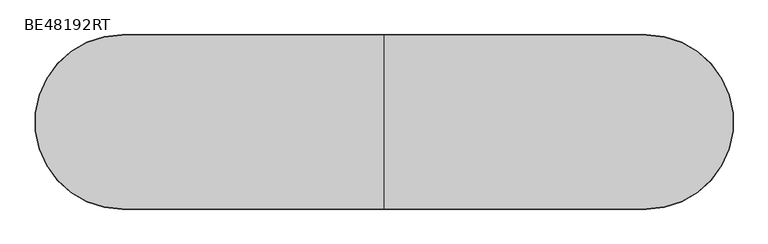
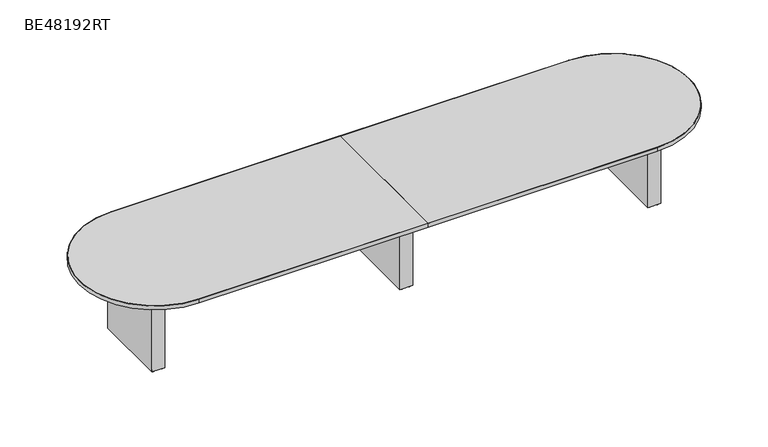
"""IFC4 building model written with IfcOpenShell, lengths in millimetres: furniture geometry, ERG-Beta-Conference_Table-Racetrack : BE48192RT."""

import ifcopenshell
import ifcopenshell.guid

model = None  # the IFC model being written
_history = None  # IfcOwnerHistory: only IFC2X3 demands one
_inside = {}  # id of a spatial element -> (the spatial element, [elements in it])
_under = {}  # id of a project, library or spatial element -> (it, [spatial elements below it])
_declared = {}  # id of a project -> (the project, [libraries it declares])
_typed = {}  # id of a type object -> (the type object, [elements of that type])
_made_of = {}  # id of a material, layer set ... -> (it, [elements and type objects made of it])


def new_model(schema):
    """Start an empty IFC model of exactly this schema.

    Asked for "IFC4X3", IfcOpenShell would pick the latest addendum, in which some entities
    have other attributes; the version numbers below select the first issue.
    IFC2X3 requires an IfcOwnerHistory on every rooted entity: one is made here for all.
    """
    global model, _history
    if schema == "IFC4X3":
        model = ifcopenshell.file(schema_version=(4, 3, 0, 0))
    else:
        model = ifcopenshell.file(schema=schema)
    _inside.clear()
    _under.clear()
    _declared.clear()
    _typed.clear()
    _made_of.clear()
    _history = None
    if model.schema == "IFC2X3":
        org = make("IfcOrganization", Name="unknown")
        user = make(
            "IfcPersonAndOrganization",
            ThePerson=make("IfcPerson", FamilyName="unknown"),
            TheOrganization=org,
        )
        app = make(
            "IfcApplication",
            ApplicationDeveloper=org,
            Version="unknown",
            ApplicationFullName="unknown",
            ApplicationIdentifier="unknown",
        )
        _history = make(
            "IfcOwnerHistory",
            OwningUser=user,
            OwningApplication=app,
            ChangeAction="ADDED",
            CreationDate=0,
        )
    return model


def make(cls, **values):
    """One entity of the class cls with the attributes given. An attribute that is None is left unset."""
    return model.create_entity(
        cls, **{name: value for name, value in values.items() if value is not None}
    )


def rooted(cls, **values):
    """An entity with a GlobalId (a new one), such as an element, a storey or a relation."""
    return make(cls, GlobalId=ifcopenshell.guid.new(), OwnerHistory=_history, **values)


def si_unit(unit_type, name, prefix=None):
    """IfcSIUnit, for example si_unit("LENGTHUNIT", "METRE", prefix="MILLI")."""
    return make("IfcSIUnit", UnitType=unit_type, Prefix=prefix, Name=name)


def assignment(units):
    """IfcUnitAssignment: the units of a project."""
    return None if units is None else make("IfcUnitAssignment", Units=units)


def point(xyz):
    """IfcCartesianPoint."""
    return None if xyz is None else make("IfcCartesianPoint", Coordinates=xyz)


def direction(xyz):
    """IfcDirection."""
    return None if xyz is None else make("IfcDirection", DirectionRatios=xyz)


def frame(location, z_axis=None, x_axis=None):
    """IfcAxis2Placement3D, a coordinate frame: its origin and axes. An axis left out is left unset."""
    return make(
        "IfcAxis2Placement3D",
        Location=point(location),
        Axis=direction(z_axis),
        RefDirection=direction(x_axis),
    )


def frame_2d(location, x_axis=None):
    """IfcAxis2Placement2D, a coordinate frame in the plane: its origin and x axis."""
    return make(
        "IfcAxis2Placement2D", Location=point(location), RefDirection=direction(x_axis)
    )


def origin():
    """The frame at (0, 0, 0) with its axes left unset."""
    return frame((0.0, 0.0, 0.0))


def origin_with_axes():
    """The frame at (0, 0, 0) with the z axis (0, 0, 1) and the x axis (1, 0, 0) written out."""
    return frame((0.0, 0.0, 0.0), z_axis=(0.0, 0.0, 1.0), x_axis=(1.0, 0.0, 0.0))


def place(relative_to, where):
    """IfcLocalPlacement: puts the frame where relative to a parent placement (None: the world)."""
    return make(
        "IfcLocalPlacement", PlacementRelTo=relative_to, RelativePlacement=where
    )


def context(
    kind, dimensions, precision=None, world=None, true_north=None, identifier=None
):
    """IfcGeometricRepresentationContext, for example the 3D "Model" context."""
    return make(
        "IfcGeometricRepresentationContext",
        ContextIdentifier=identifier,
        ContextType=kind,
        CoordinateSpaceDimension=dimensions,
        Precision=precision,
        WorldCoordinateSystem=world,
        TrueNorth=true_north,
    )


def project(units=None, contexts=None):
    """IfcProject with its units and contexts."""
    return rooted(
        "IfcProject",
        Name="project",
        RepresentationContexts=contexts,
        UnitsInContext=assignment(units),
    )


def spatial(cls, under=None, at=None, **own):
    """A site, building, storey or space (cls), placed at a placement, below another one or the project."""
    s = rooted(cls, ObjectPlacement=at, **own)
    if under is not None:
        _under.setdefault(under.id(), (under, []))[1].append(s)
    return s


def polyline(points):
    """IfcPolyline through the points."""
    return make("IfcPolyline", Points=[point(p) for p in points])


def circle_curve(where, radius):
    """IfcCircle in the frame where."""
    return make("IfcCircle", Position=where, Radius=radius)


def trimmed(basis, trim1, trim2, sense, master):
    """IfcTrimmedCurve: the piece of a basis curve between two trims."""
    return make(
        "IfcTrimmedCurve",
        BasisCurve=basis,
        Trim1=trim1,
        Trim2=trim2,
        SenseAgreement=sense,
        MasterRepresentation=master,
    )


def segment(curve, same_sense, transition):
    """IfcCompositeCurveSegment."""
    return make(
        "IfcCompositeCurveSegment",
        Transition=transition,
        SameSense=same_sense,
        ParentCurve=curve,
    )


def composite_curve(segments, self_intersect=None):
    """IfcCompositeCurve: segments joined end to end."""
    return make("IfcCompositeCurve", Segments=segments, SelfIntersect=self_intersect)


def outline(outer, holes=None, kind="AREA"):
    """IfcArbitraryClosedProfileDef: a profile drawn as a closed curve; with holes, ...WithVoids."""
    if holes is None:
        return make("IfcArbitraryClosedProfileDef", ProfileType=kind, OuterCurve=outer)
    return make(
        "IfcArbitraryProfileDefWithVoids",
        ProfileType=kind,
        OuterCurve=outer,
        InnerCurves=holes,
    )


def extrude(swept, where, along, depth):
    """IfcExtrudedAreaSolid: the profile swept, set in the frame where, extruded along a direction by depth."""
    return make(
        "IfcExtrudedAreaSolid",
        SweptArea=swept,
        Position=where,
        ExtrudedDirection=direction(along),
        Depth=depth,
    )


def shape(context_of_items, identifier, shape_type, items):
    """IfcShapeRepresentation: the items that make up one representation, for example the "Body"."""
    return make(
        "IfcShapeRepresentation",
        ContextOfItems=context_of_items,
        RepresentationIdentifier=identifier,
        RepresentationType=shape_type,
        Items=items,
    )


def source(mapping_origin, context_of_items, identifier, shape_type, items):
    """IfcRepresentationMap: a shape defined once, which mapped items show again and again."""
    return make(
        "IfcRepresentationMap",
        MappingOrigin=mapping_origin,
        MappedRepresentation=shape(context_of_items, identifier, shape_type, items),
    )


def transform(
    local_origin,
    x_axis=None,
    y_axis=None,
    z_axis=None,
    scale=None,
    scale2=None,
    scale3=None,
    uniform=True,
):
    """IfcCartesianTransformationOperator3D, or its non-uniform kind. x_axis, y_axis, z_axis: its Axis1, 2, 3."""
    if uniform:
        return make(
            "IfcCartesianTransformationOperator3D",
            Axis1=direction(x_axis),
            Axis2=direction(y_axis),
            LocalOrigin=point(local_origin),
            Scale=scale,
            Axis3=direction(z_axis),
        )
    return make(
        "IfcCartesianTransformationOperator3DnonUniform",
        Axis1=direction(x_axis),
        Axis2=direction(y_axis),
        LocalOrigin=point(local_origin),
        Scale=scale,
        Axis3=direction(z_axis),
        Scale2=scale2,
        Scale3=scale3,
    )


def mapped(mapping_source, mapping_target):
    """IfcMappedItem: shows the shape of a source again, moved by a transform."""
    return make(
        "IfcMappedItem", MappingSource=mapping_source, MappingTarget=mapping_target
    )


def made_of(thing, what):
    """Note that an element or type object is made of a material, layer set ...; save() writes the relation."""
    if what is not None:
        _made_of.setdefault(what.id(), (what, []))[1].append(thing)
    return thing


def element(
    cls,
    number,
    at=None,
    inside=None,
    cuts=None,
    type_object=None,
    material=None,
    context=None,
    identifier="Body",
    shape_type=None,
    held_by="IfcProductDefinitionShape",
    body=None,
    shapes=None,
    **own,
):
    """One element of the class cls, such as IfcWall. Its Tag is "e" and its number.

    at: its placement. inside: the storey or other place that contains it. cuts: it is an
    opening in that element (IfcRelVoidsElement). A single representation is given by context,
    identifier, shape_type and body (its items); several are given by shapes. held_by: the class
    of the entity that holds the representations. save() writes the other relations.
    """
    e = rooted(cls, Tag="e%d" % number, ObjectPlacement=at, **own)
    if body is not None:
        shapes = [shape(context, identifier, shape_type, body)]
    if shapes is not None:
        e.Representation = make(held_by, Representations=shapes)
    if inside is not None:
        _inside.setdefault(inside.id(), (inside, []))[1].append(e)
    if cuts is not None:
        rooted(
            "IfcRelVoidsElement", RelatingBuildingElement=cuts, RelatedOpeningElement=e
        )
    if type_object is not None:
        _typed.setdefault(type_object.id(), (type_object, []))[1].append(e)
    return made_of(e, material)


def aggregate(whole, parts):
    """IfcRelAggregates: a whole, such as a stair, and the parts it consists of."""
    return rooted("IfcRelAggregates", RelatingObject=whole, RelatedObjects=parts)


def save(model, path):
    """Write the relations noted so far, then the file.

    IfcRelAggregates (storeys below a building ...), IfcRelContainedInSpatialStructure (elements
    in a storey), IfcRelDefinesByType, IfcRelAssociatesMaterial and IfcRelDeclares: one each for
    every whole, place, type object, material and project.
    """
    for whole, parts in _under.values():
        aggregate(whole, parts)
    for where, things in _inside.values():
        rooted(
            "IfcRelContainedInSpatialStructure",
            RelatedElements=things,
            RelatingStructure=where,
        )
    for kind, things in _typed.values():
        rooted("IfcRelDefinesByType", RelatedObjects=things, RelatingType=kind)
    for what, things in _made_of.values():
        rooted("IfcRelAssociatesMaterial", RelatedObjects=things, RelatingMaterial=what)
    for by, libraries in _declared.values():
        rooted("IfcRelDeclares", RelatingContext=by, RelatedDefinitions=libraries)
    model.write(path)


def be48192rt_52dd922f(model_context):
    return source(origin(), model_context, "Body", "SweptSolid", [
        extrude(outline(composite_curve([segment(trimmed(circle_curve(frame_2d((511.175, 339.476527)), 9.525), [point((501.65, 339.476527))], [point((520.7, 339.476527))], False, "CARTESIAN"), True, "CONTINUOUS"), segment(trimmed(circle_curve(frame_2d((511.175, 339.476527)), 9.525), [point((520.7, 339.476527))], [point((501.65, 339.476527))], False, "CARTESIAN"), True, "CONTINUOUS")], self_intersect=False)), origin_with_axes(), (0.0, 0.0, 1.0), 9.525),
        extrude(outline(composite_curve([segment(trimmed(circle_curve(frame_2d((574.675, 339.476527)), 9.525), [point((565.15, 339.476527))], [point((584.2, 339.476527))], False, "CARTESIAN"), True, "CONTINUOUS"), segment(trimmed(circle_curve(frame_2d((574.675, 339.476527)), 9.525), [point((584.2, 339.476527))], [point((565.15, 339.476527))], False, "CARTESIAN"), True, "CONTINUOUS")], self_intersect=False)), origin_with_axes(), (0.0, 0.0, 1.0), 9.525),
        extrude(outline(composite_curve([segment(trimmed(circle_curve(frame_2d((511.175, -232.023473)), 9.525), [point((501.65, -232.023473))], [point((520.7, -232.023473))], False, "CARTESIAN"), True, "CONTINUOUS"), segment(trimmed(circle_curve(frame_2d((511.175, -232.023473)), 9.525), [point((520.7, -232.023473))], [point((501.65, -232.023473))], False, "CARTESIAN"), True, "CONTINUOUS")], self_intersect=False)), origin_with_axes(), (0.0, 0.0, 1.0), 9.525),
        extrude(outline(composite_curve([segment(trimmed(circle_curve(frame_2d((574.675, -232.023473)), 9.525), [point((565.15, -232.023473))], [point((584.2, -232.023473))], False, "CARTESIAN"), True, "CONTINUOUS"), segment(trimmed(circle_curve(frame_2d((574.675, -232.023473)), 9.525), [point((584.2, -232.023473))], [point((565.15, -232.023473))], False, "CARTESIAN"), True, "CONTINUOUS")], self_intersect=False)), origin_with_axes(), (0.0, 0.0, 1.0), 9.525),
        extrude(outline(polyline([(593.725, 358.526527), (593.725, -251.073473), (492.125, -251.073473), (492.125, 358.526527), (593.725, 358.526527)])), frame((0.0, 0.0, 9.525), z_axis=(0.0, 0.0, 1.0), x_axis=(1.0, 0.0, 0.0)), (0.0, 0.0, 1.0), 695.3249758),
        extrude(outline(composite_curve([segment(trimmed(circle_curve(frame_2d((2492.375, 339.476527)), 9.525), [point((2482.85, 339.476527))], [point((2501.9, 339.476527))], False, "CARTESIAN"), True, "CONTINUOUS"), segment(trimmed(circle_curve(frame_2d((2492.375, 339.476527)), 9.525), [point((2501.9, 339.476527))], [point((2482.85, 339.476527))], False, "CARTESIAN"), True, "CONTINUOUS")], self_intersect=False)), origin_with_axes(), (0.0, 0.0, 1.0), 9.525),
        extrude(outline(composite_curve([segment(trimmed(circle_curve(frame_2d((2555.875, 339.476527)), 9.525), [point((2546.35, 339.476527))], [point((2565.4, 339.476527))], False, "CARTESIAN"), True, "CONTINUOUS"), segment(trimmed(circle_curve(frame_2d((2555.875, 339.476527)), 9.525), [point((2565.4, 339.476527))], [point((2546.35, 339.476527))], False, "CARTESIAN"), True, "CONTINUOUS")], self_intersect=False)), origin_with_axes(), (0.0, 0.0, 1.0), 9.525),
        extrude(outline(composite_curve([segment(trimmed(circle_curve(frame_2d((2492.375, -232.023473)), 9.525), [point((2482.85, -232.023473))], [point((2501.9, -232.023473))], False, "CARTESIAN"), True, "CONTINUOUS"), segment(trimmed(circle_curve(frame_2d((2492.375, -232.023473)), 9.525), [point((2501.9, -232.023473))], [point((2482.85, -232.023473))], False, "CARTESIAN"), True, "CONTINUOUS")], self_intersect=False)), origin_with_axes(), (0.0, 0.0, 1.0), 9.525),
        extrude(outline(composite_curve([segment(trimmed(circle_curve(frame_2d((2555.875, -232.023473)), 9.525), [point((2546.35, -232.023473))], [point((2565.4, -232.023473))], False, "CARTESIAN"), True, "CONTINUOUS"), segment(trimmed(circle_curve(frame_2d((2555.875, -232.023473)), 9.525), [point((2565.4, -232.023473))], [point((2546.35, -232.023473))], False, "CARTESIAN"), True, "CONTINUOUS")], self_intersect=False)), origin_with_axes(), (0.0, 0.0, 1.0), 9.525),
        extrude(outline(polyline([(2574.925, 358.526527), (2574.925, -251.073473), (2473.325, -251.073473), (2473.325, 358.526527), (2574.925, 358.526527)])), frame((0.0, 0.0, 9.525), z_axis=(0.0, 0.0, 1.0), x_axis=(1.0, 0.0, 0.0)), (0.0, 0.0, 1.0), 695.3249758),
        extrude(outline(composite_curve([segment(trimmed(circle_curve(frame_2d((-1470.025, 339.476527)), 9.525), [point((-1479.55, 339.476527))], [point((-1460.5, 339.476527))], False, "CARTESIAN"), True, "CONTINUOUS"), segment(trimmed(circle_curve(frame_2d((-1470.025, 339.476527)), 9.525), [point((-1460.5, 339.476527))], [point((-1479.55, 339.476527))], False, "CARTESIAN"), True, "CONTINUOUS")], self_intersect=False)), origin_with_axes(), (0.0, 0.0, 1.0), 9.525),
        extrude(outline(composite_curve([segment(trimmed(circle_curve(frame_2d((-1406.525, 339.476527)), 9.525), [point((-1416.05, 339.476527))], [point((-1397.0, 339.476527))], False, "CARTESIAN"), True, "CONTINUOUS"), segment(trimmed(circle_curve(frame_2d((-1406.525, 339.476527)), 9.525), [point((-1397.0, 339.476527))], [point((-1416.05, 339.476527))], False, "CARTESIAN"), True, "CONTINUOUS")], self_intersect=False)), origin_with_axes(), (0.0, 0.0, 1.0), 9.525),
        extrude(outline(composite_curve([segment(trimmed(circle_curve(frame_2d((-1470.025, -232.023473)), 9.525), [point((-1479.55, -232.023473))], [point((-1460.5, -232.023473))], False, "CARTESIAN"), True, "CONTINUOUS"), segment(trimmed(circle_curve(frame_2d((-1470.025, -232.023473)), 9.525), [point((-1460.5, -232.023473))], [point((-1479.55, -232.023473))], False, "CARTESIAN"), True, "CONTINUOUS")], self_intersect=False)), origin_with_axes(), (0.0, 0.0, 1.0), 9.525),
        extrude(outline(composite_curve([segment(trimmed(circle_curve(frame_2d((-1406.525, -232.023473)), 9.525), [point((-1416.05, -232.023473))], [point((-1397.0, -232.023473))], False, "CARTESIAN"), True, "CONTINUOUS"), segment(trimmed(circle_curve(frame_2d((-1406.525, -232.023473)), 9.525), [point((-1397.0, -232.023473))], [point((-1416.05, -232.023473))], False, "CARTESIAN"), True, "CONTINUOUS")], self_intersect=False)), origin_with_axes(), (0.0, 0.0, 1.0), 9.525),
        extrude(outline(polyline([(-1387.475, 358.526527), (-1387.475, -251.073473), (-1489.075, -251.073473), (-1489.075, 358.526527), (-1387.475, 358.526527)])), frame((0.0, 0.0, 9.525), z_axis=(0.0, 0.0, 1.0), x_axis=(1.0, 0.0, 0.0)), (0.0, 0.0, 1.0), 695.3249758),
        extrude(outline(composite_curve([segment(trimmed(circle_curve(frame_2d((2371.725, 53.726527)), 606.425), [point((2371.725, 660.151527))], [point((2371.725, -552.698473))], False, "CARTESIAN"), True, "CONTINUOUS"), segment(polyline([(2371.725, -552.698473), (544.5125, -552.698473), (544.5125, 660.151527), (2371.725, 660.151527)]), True, "CONTINUOUS")], self_intersect=False)), frame((0.0, 0.0, 704.85), z_axis=(0.0, 0.0, 1.0), x_axis=(1.0, 0.0, 0.0)), (0.0, 0.0, 1.0), 31.75),
        extrude(outline(composite_curve([segment(trimmed(circle_curve(frame_2d((-1285.875, 53.726527)), 606.425), [point((-1285.875, -552.698473))], [point((-1285.875, 660.151527))], False, "CARTESIAN"), True, "CONTINUOUS"), segment(polyline([(-1285.875, 660.151527), (541.3375, 660.151527), (541.3375, -552.698473), (-1285.875, -552.698473)]), True, "CONTINUOUS")], self_intersect=False)), frame((0.0, 0.0, 704.85), z_axis=(0.0, 0.0, 1.0), x_axis=(1.0, 0.0, 0.0)), (0.0, 0.0, 1.0), 31.75),
        extrude(outline(composite_curve([segment(trimmed(circle_curve(frame_2d((2371.725, 53.726527)), 606.425), [point((2371.725, -552.698473))], [point((2371.725, 660.151527))], True, "CARTESIAN"), True, "CONTINUOUS"), segment(polyline([(2371.725, 660.151527), (544.5125, 660.151527), (544.5125, 663.326527), (2371.725, 663.326527)]), True, "CONTINUOUS"), segment(trimmed(circle_curve(frame_2d((2371.725, 53.726527)), 609.6), [point((2371.725, 663.326527))], [point((2371.725, -555.873473))], False, "CARTESIAN"), True, "CONTINUOUS"), segment(polyline([(2371.725, -555.873473), (544.5125, -555.873473), (544.5125, -552.698473), (2371.725, -552.698473)]), True, "CONTINUOUS")], self_intersect=False)), frame((0.0, 0.0, 704.85), z_axis=(0.0, 0.0, 1.0), x_axis=(1.0, 0.0, 0.0)), (0.0, 0.0, 1.0), 31.75),
        extrude(outline(composite_curve([segment(trimmed(circle_curve(frame_2d((-1285.875, 53.726527)), 609.6), [point((-1285.875, -555.873473))], [point((-1285.875, 663.326527))], False, "CARTESIAN"), True, "CONTINUOUS"), segment(polyline([(-1285.875, 663.326527), (541.3375, 663.326527), (541.3375, 660.151527), (-1285.875, 660.151527)]), True, "CONTINUOUS"), segment(trimmed(circle_curve(frame_2d((-1285.875, 53.726527)), 606.425), [point((-1285.875, 660.151527))], [point((-1285.875, -552.698473))], True, "CARTESIAN"), True, "CONTINUOUS"), segment(polyline([(-1285.875, -552.698473), (541.3375, -552.698473), (541.3375, -555.873473), (-1285.875, -555.873473)]), True, "CONTINUOUS")], self_intersect=False)), frame((0.0, 0.0, 704.85), z_axis=(0.0, 0.0, 1.0), x_axis=(1.0, 0.0, 0.0)), (0.0, 0.0, 1.0), 31.75),
    ])


if __name__ == "__main__":
    model = new_model("IFC4")
    model_context = context("Model", 3, world=origin())
    ifc_project = project(units=[si_unit("LENGTHUNIT", "METRE", prefix="MILLI")], contexts=[model_context])
    site = spatial("IfcSite", under=ifc_project)
    building = spatial("IfcBuilding", under=site)
    placement = place(None, origin())
    be48192rt_shape = be48192rt_52dd922f(model_context)
    element("IfcFurniture", 1, ObjectType="ERG-Beta-Conference_Table-Racetrack : BE48192RT", at=placement, inside=building, context=model_context, shape_type="MappedRepresentation", body=[
        mapped(be48192rt_shape, transform((0.0, 0.0, 0.0), x_axis=(1.0, 0.0, 0.0), y_axis=(0.0, 1.0, 0.0), z_axis=(0.0, 0.0, 1.0))),
    ])
    save(model, "model.ifc")
